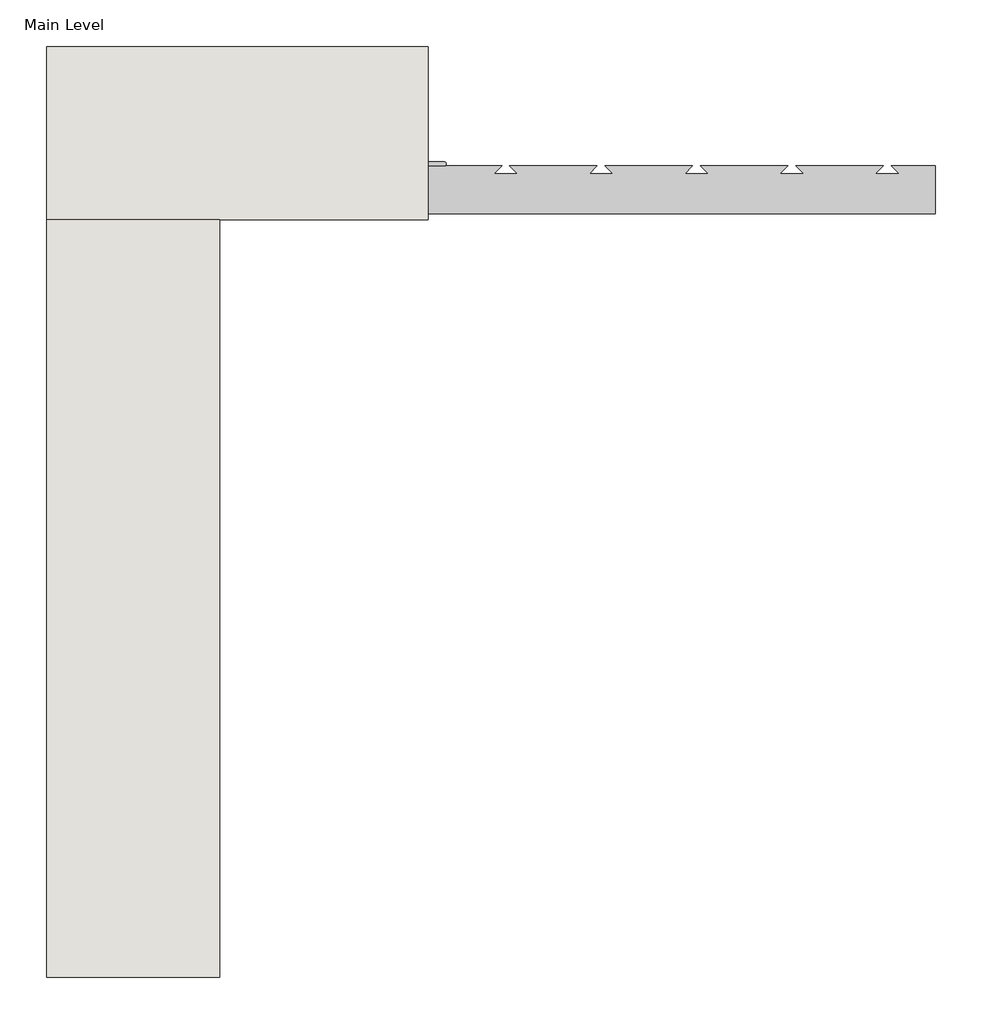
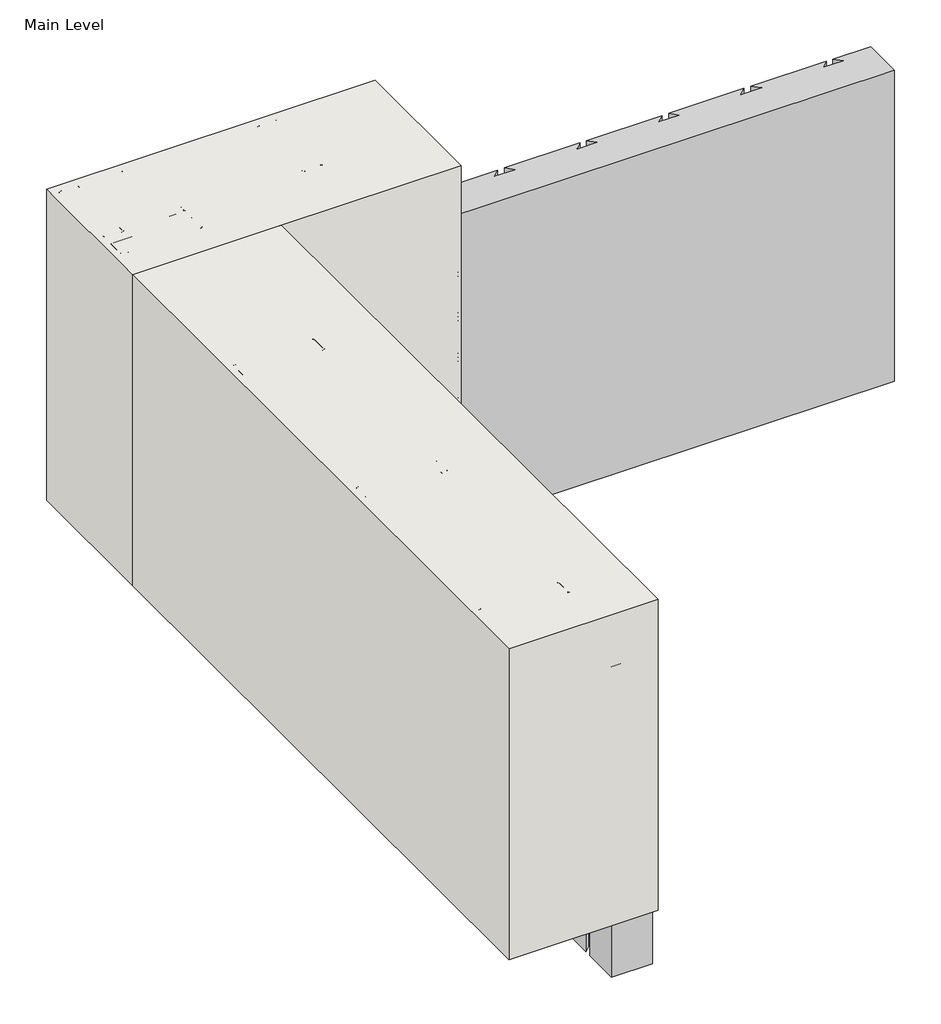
# One storey, incomplete: 36 proxies, 2 walls.
"""IFC4 building model written with IfcOpenShell, lengths in millimetres."""

from ifc_helpers import new_model, si_unit, origin, origin_with_axes, place, context, project, spatial, polyline, outline, extrude, faceted_brep, transform, mapped, element, save
from components import generic_models_03ec6e0e, generic_models_0ed8512b, generic_models_91a65217, generic_models_7cb75a2d, generic_models_e38217e9, generic_models_8121e3b1, generic_models_e2e28054, generic_models_599f1aef, generic_models_cbf5ee67, proxy_998bcb27, proxy_63d6b373, proxy_d4c17246

model = new_model("IFC4")

# Units and contexts
model_context = context("Model", 3, world=origin())
ifc_project = project(units=[si_unit("LENGTHUNIT", "METRE", prefix="MILLI")], contexts=[model_context])

# Site, building, storey
site = spatial("IfcSite", under=ifc_project)
building = spatial("IfcBuilding", under=site)
storey = spatial("IfcBuildingStorey", under=building, Name="Main Level", Elevation=0.0)

# Proxies
placement = place(None, origin())
generic_models_shape = generic_models_03ec6e0e(model_context)
element("IfcBuildingElementProxy", 1, Name="CRAi Generic Model Drywall Screw : CRAi Generic Model Drywall Screw", ObjectType="CRAi Generic Model Drywall Screw : CRAi Generic Model Drywall Screw", at=placement, inside=storey, context=model_context, shape_type="MappedRepresentation", body=[
    mapped(generic_models_shape, transform((27329.7539273, 614.9316297, 584.2), x_axis=(0.0, 1.0, 0.0), y_axis=(0.0, 0.0, 1.0), z_axis=(1.0, 0.0, 0.0))),
])
element("IfcBuildingElementProxy", 2, Name="CRAi Generic Model Drywall Screw : CRAi Generic Model Drywall Screw", ObjectType="CRAi Generic Model Drywall Screw : CRAi Generic Model Drywall Screw", at=placement, inside=storey, context=model_context, shape_type="MappedRepresentation", body=[
    mapped(generic_models_shape, transform((27329.7539273, 221.2316297, 584.2), x_axis=(0.0, 1.0, 0.0), y_axis=(0.0, 0.0, 1.0), z_axis=(1.0, 0.0, 0.0))),
])
element("IfcBuildingElementProxy", 3, Name="CRAi Generic Model Drywall Screw : CRAi Generic Model Drywall Screw", ObjectType="CRAi Generic Model Drywall Screw : CRAi Generic Model Drywall Screw", at=placement, inside=storey, context=model_context, shape_type="MappedRepresentation", body=[
    mapped(generic_models_shape, transform((27329.7539273, -172.4683703, 584.2), x_axis=(0.0, 1.0, 0.0), y_axis=(0.0, 0.0, 1.0), z_axis=(1.0, 0.0, 0.0))),
])
element("IfcBuildingElementProxy", 4, Name="CRAi Generic Model Drywall Screw : CRAi Generic Model Drywall Screw", ObjectType="CRAi Generic Model Drywall Screw : CRAi Generic Model Drywall Screw", at=placement, inside=storey, context=model_context, shape_type="MappedRepresentation", body=[
    mapped(generic_models_shape, transform((27329.7539273, -566.1683703, 584.2), x_axis=(0.0, 1.0, 0.0), y_axis=(0.0, 0.0, 1.0), z_axis=(1.0, 0.0, 0.0))),
])
element("IfcBuildingElementProxy", 5, Name="CRAi Generic Model Drywall Screw : CRAi Generic Model Drywall Screw", ObjectType="CRAi Generic Model Drywall Screw : CRAi Generic Model Drywall Screw", at=placement, inside=storey, context=model_context, shape_type="MappedRepresentation", body=[
    mapped(generic_models_shape, transform((27294.8289273, 633.9816297, 584.2), x_axis=(1.0, 0.0, 0.0), y_axis=(0.0, 0.0, 1.0), z_axis=(0.0, -1.0, 0.0))),
])
element("IfcBuildingElementProxy", 6, Name="CRAi Generic Model Drywall Screw : CRAi Generic Model Drywall Screw", ObjectType="CRAi Generic Model Drywall Screw : CRAi Generic Model Drywall Screw", at=placement, inside=storey, context=model_context, shape_type="MappedRepresentation", body=[
    mapped(generic_models_shape, transform((27180.5289273, 633.9816297, 584.2), x_axis=(1.0, 0.0, 0.0), y_axis=(0.0, 0.0, 1.0), z_axis=(0.0, -1.0, 0.0))),
])
element("IfcBuildingElementProxy", 7, Name="CRAi Generic Model Drywall Screw : CRAi Generic Model Drywall Screw", ObjectType="CRAi Generic Model Drywall Screw : CRAi Generic Model Drywall Screw", at=placement, inside=storey, context=model_context, shape_type="MappedRepresentation", body=[
    mapped(generic_models_shape, transform((27548.8289273, 633.9816297, 584.2), x_axis=(1.0, 0.0, 0.0), y_axis=(0.0, 0.0, 1.0), z_axis=(0.0, -1.0, 0.0))),
])
generic_models_2_shape = generic_models_0ed8512b(model_context)
element("IfcBuildingElementProxy", 8, Name="Durabond Generic Model Insulation Adhesive Flat : Durabond Generic Model Insulation Adhesive Flat", ObjectType="Durabond Generic Model Insulation Adhesive Flat : Durabond Generic Model Insulation Adhesive Flat", at=placement, inside=storey, context=model_context, shape_type="MappedRepresentation", body=[
    mapped(generic_models_2_shape, transform((27336.1039273, 510.1566297, 0.0), x_axis=(0.0, 1.0, 0.0), y_axis=(-1.0, 0.0, 0.0), z_axis=(0.0, 0.0, 1.0))),
])
element("IfcBuildingElementProxy", 9, Name="Durabond Generic Model Insulation Adhesive Flat : Durabond Generic Model Insulation Adhesive Flat", ObjectType="Durabond Generic Model Insulation Adhesive Flat : Durabond Generic Model Insulation Adhesive Flat", at=placement, inside=storey, context=model_context, shape_type="MappedRepresentation", body=[
    mapped(generic_models_2_shape, transform((27336.1039273, 433.9566297, 0.0), x_axis=(0.0, 1.0, 0.0), y_axis=(-1.0, 0.0, 0.0), z_axis=(0.0, 0.0, 1.0))),
])
element("IfcBuildingElementProxy", 10, Name="Durabond Generic Model Insulation Adhesive Flat : Durabond Generic Model Insulation Adhesive Flat", ObjectType="Durabond Generic Model Insulation Adhesive Flat : Durabond Generic Model Insulation Adhesive Flat", at=placement, inside=storey, context=model_context, shape_type="MappedRepresentation", body=[
    mapped(generic_models_2_shape, transform((27336.1039273, 357.7566297, 0.0), x_axis=(0.0, 1.0, 0.0), y_axis=(-1.0, 0.0, 0.0), z_axis=(0.0, 0.0, 1.0))),
])
element("IfcBuildingElementProxy", 11, Name="Durabond Generic Model Insulation Adhesive Flat : Durabond Generic Model Insulation Adhesive Flat", ObjectType="Durabond Generic Model Insulation Adhesive Flat : Durabond Generic Model Insulation Adhesive Flat", at=placement, inside=storey, context=model_context, shape_type="MappedRepresentation", body=[
    mapped(generic_models_2_shape, transform((27336.1039273, 281.5566297, 0.0), x_axis=(0.0, 1.0, 0.0), y_axis=(-1.0, 0.0, 0.0), z_axis=(0.0, 0.0, 1.0))),
])
element("IfcBuildingElementProxy", 12, Name="Durabond Generic Model Insulation Adhesive Flat : Durabond Generic Model Insulation Adhesive Flat", ObjectType="Durabond Generic Model Insulation Adhesive Flat : Durabond Generic Model Insulation Adhesive Flat", at=placement, inside=storey, context=model_context, shape_type="MappedRepresentation", body=[
    mapped(generic_models_2_shape, transform((27336.1039273, 205.3566297, 0.0), x_axis=(0.0, 1.0, 0.0), y_axis=(-1.0, 0.0, 0.0), z_axis=(0.0, 0.0, 1.0))),
])
element("IfcBuildingElementProxy", 13, Name="Durabond Generic Model Insulation Adhesive Flat : Durabond Generic Model Insulation Adhesive Flat", ObjectType="Durabond Generic Model Insulation Adhesive Flat : Durabond Generic Model Insulation Adhesive Flat", at=placement, inside=storey, context=model_context, shape_type="MappedRepresentation", body=[
    mapped(generic_models_2_shape, transform((27336.1039273, 129.1566297, 0.0), x_axis=(0.0, 1.0, 0.0), y_axis=(-1.0, 0.0, 0.0), z_axis=(0.0, 0.0, 1.0))),
])
element("IfcBuildingElementProxy", 14, Name="Durabond Generic Model Insulation Adhesive Flat : Durabond Generic Model Insulation Adhesive Flat", ObjectType="Durabond Generic Model Insulation Adhesive Flat : Durabond Generic Model Insulation Adhesive Flat", at=placement, inside=storey, context=model_context, shape_type="MappedRepresentation", body=[
    mapped(generic_models_2_shape, transform((27336.1039273, 52.9566297, 0.0), x_axis=(0.0, 1.0, 0.0), y_axis=(-1.0, 0.0, 0.0), z_axis=(0.0, 0.0, 1.0))),
])
element("IfcBuildingElementProxy", 15, Name="Durabond Generic Model Insulation Adhesive Flat : Durabond Generic Model Insulation Adhesive Flat", ObjectType="Durabond Generic Model Insulation Adhesive Flat : Durabond Generic Model Insulation Adhesive Flat", at=placement, inside=storey, context=model_context, shape_type="MappedRepresentation", body=[
    mapped(generic_models_2_shape, transform((27336.1039273, -23.2433703, 0.0), x_axis=(0.0, 1.0, 0.0), y_axis=(-1.0, 0.0, 0.0), z_axis=(0.0, 0.0, 1.0))),
])
element("IfcBuildingElementProxy", 16, Name="Durabond Generic Model Insulation Adhesive Flat : Durabond Generic Model Insulation Adhesive Flat", ObjectType="Durabond Generic Model Insulation Adhesive Flat : Durabond Generic Model Insulation Adhesive Flat", at=placement, inside=storey, context=model_context, shape_type="MappedRepresentation", body=[
    mapped(generic_models_2_shape, transform((27336.1039273, -99.4433703, 0.0), x_axis=(0.0, 1.0, 0.0), y_axis=(-1.0, 0.0, 0.0), z_axis=(0.0, 0.0, 1.0))),
])
element("IfcBuildingElementProxy", 17, Name="Durabond Generic Model Insulation Adhesive Flat : Durabond Generic Model Insulation Adhesive Flat", ObjectType="Durabond Generic Model Insulation Adhesive Flat : Durabond Generic Model Insulation Adhesive Flat", at=placement, inside=storey, context=model_context, shape_type="MappedRepresentation", body=[
    mapped(generic_models_2_shape, transform((27336.1039273, -175.6433703, 0.0), x_axis=(0.0, 1.0, 0.0), y_axis=(-1.0, 0.0, 0.0), z_axis=(0.0, 0.0, 1.0))),
])
element("IfcBuildingElementProxy", 18, Name="Durabond Generic Model Insulation Adhesive Flat : Durabond Generic Model Insulation Adhesive Flat", ObjectType="Durabond Generic Model Insulation Adhesive Flat : Durabond Generic Model Insulation Adhesive Flat", at=placement, inside=storey, context=model_context, shape_type="MappedRepresentation", body=[
    mapped(generic_models_2_shape, transform((27336.1039273, -251.8433703, 0.0), x_axis=(0.0, 1.0, 0.0), y_axis=(-1.0, 0.0, 0.0), z_axis=(0.0, 0.0, 1.0))),
])
element("IfcBuildingElementProxy", 19, Name="Durabond Generic Model Insulation Adhesive Flat : Durabond Generic Model Insulation Adhesive Flat", ObjectType="Durabond Generic Model Insulation Adhesive Flat : Durabond Generic Model Insulation Adhesive Flat", at=placement, inside=storey, context=model_context, shape_type="MappedRepresentation", body=[
    mapped(generic_models_2_shape, transform((27336.1039273, -328.0433703, 0.0), x_axis=(0.0, 1.0, 0.0), y_axis=(-1.0, 0.0, 0.0), z_axis=(0.0, 0.0, 1.0))),
])
element("IfcBuildingElementProxy", 20, Name="Durabond Generic Model Insulation Adhesive Flat : Durabond Generic Model Insulation Adhesive Flat", ObjectType="Durabond Generic Model Insulation Adhesive Flat : Durabond Generic Model Insulation Adhesive Flat", at=placement, inside=storey, context=model_context, shape_type="MappedRepresentation", body=[
    mapped(generic_models_2_shape, transform((27336.1039273, -404.2433703, 0.0), x_axis=(0.0, 1.0, 0.0), y_axis=(-1.0, 0.0, 0.0), z_axis=(0.0, 0.0, 1.0))),
])
element("IfcBuildingElementProxy", 21, Name="Durabond Generic Model Insulation Adhesive Flat : Durabond Generic Model Insulation Adhesive Flat", ObjectType="Durabond Generic Model Insulation Adhesive Flat : Durabond Generic Model Insulation Adhesive Flat", at=placement, inside=storey, context=model_context, shape_type="MappedRepresentation", body=[
    mapped(generic_models_2_shape, transform((27336.1039273, -480.4433703, 0.0), x_axis=(0.0, 1.0, 0.0), y_axis=(-1.0, 0.0, 0.0), z_axis=(0.0, 0.0, 1.0))),
])
element("IfcBuildingElementProxy", 22, Name="Durabond Generic Model Insulation Adhesive Flat : Durabond Generic Model Insulation Adhesive Flat", ObjectType="Durabond Generic Model Insulation Adhesive Flat : Durabond Generic Model Insulation Adhesive Flat", at=placement, inside=storey, context=model_context, shape_type="MappedRepresentation", body=[
    mapped(generic_models_2_shape, transform((27336.1039273, -556.6433703, 0.0), x_axis=(0.0, 1.0, 0.0), y_axis=(-1.0, 0.0, 0.0), z_axis=(0.0, 0.0, 1.0))),
])
element("IfcBuildingElementProxy", 23, Name="Durabond Generic Model Insulation Adhesive Flat : Durabond Generic Model Insulation Adhesive Flat", ObjectType="Durabond Generic Model Insulation Adhesive Flat : Durabond Generic Model Insulation Adhesive Flat", at=placement, inside=storey, context=model_context, shape_type="MappedRepresentation", body=[
    mapped(generic_models_2_shape, transform((27336.1039273, -632.8433703, 0.0), x_axis=(0.0, 1.0, 0.0), y_axis=(-1.0, 0.0, 0.0), z_axis=(0.0, 0.0, 1.0))),
])
generic_models_3_shape = generic_models_91a65217(model_context)
element("IfcBuildingElementProxy", 24, Name="Durabond Generic Model Insulation Adhesive Flat : Durabond Generic Model Insulation Adhesive Flat", ObjectType="Durabond Generic Model Insulation Adhesive Flat : Durabond Generic Model Insulation Adhesive Flat", at=placement, inside=storey, context=model_context, shape_type="MappedRepresentation", body=[
    mapped(generic_models_3_shape, transform((27386.9039273, 627.6316297, 0.0), x_axis=(1.0, 0.0, 0.0), y_axis=(0.0, 1.0, 0.0), z_axis=(0.0, 0.0, 1.0))),
])
element("IfcBuildingElementProxy", 25, Name="Durabond Generic Model Insulation Adhesive Flat : Durabond Generic Model Insulation Adhesive Flat", ObjectType="Durabond Generic Model Insulation Adhesive Flat : Durabond Generic Model Insulation Adhesive Flat", at=placement, inside=storey, context=model_context, shape_type="MappedRepresentation", body=[
    mapped(generic_models_3_shape, transform((27463.1039273, 627.6316297, 0.0), x_axis=(1.0, 0.0, 0.0), y_axis=(0.0, 1.0, 0.0), z_axis=(0.0, 0.0, 1.0))),
])
element("IfcBuildingElementProxy", 26, Name="Durabond Generic Model Insulation Adhesive Flat : Durabond Generic Model Insulation Adhesive Flat", ObjectType="Durabond Generic Model Insulation Adhesive Flat : Durabond Generic Model Insulation Adhesive Flat", at=placement, inside=storey, context=model_context, shape_type="MappedRepresentation", body=[
    mapped(generic_models_3_shape, transform((27539.3039273, 627.6316297, 0.0), x_axis=(1.0, 0.0, 0.0), y_axis=(0.0, 1.0, 0.0), z_axis=(0.0, 0.0, 1.0))),
])
element("IfcBuildingElementProxy", 27, Name="Durabond Generic Model Insulation Adhesive Flat : Durabond Generic Model Insulation Adhesive Flat", ObjectType="Durabond Generic Model Insulation Adhesive Flat : Durabond Generic Model Insulation Adhesive Flat", at=placement, inside=storey, context=model_context, shape_type="MappedRepresentation", body=[
    mapped(generic_models_3_shape, transform((27615.5039273, 627.6316297, 0.0), x_axis=(1.0, 0.0, 0.0), y_axis=(0.0, 1.0, 0.0), z_axis=(0.0, 0.0, 1.0))),
])
element("IfcBuildingElementProxy", 28, Name="Durabond Generic Model Insulation Adhesive Flat : Durabond Generic Model Insulation Adhesive Flat", ObjectType="Durabond Generic Model Insulation Adhesive Flat : Durabond Generic Model Insulation Adhesive Flat", at=placement, inside=storey, context=model_context, shape_type="MappedRepresentation", body=[
    mapped(generic_models_3_shape, transform((27691.7039273, 627.6316297, 0.0), x_axis=(1.0, 0.0, 0.0), y_axis=(0.0, 1.0, 0.0), z_axis=(0.0, 0.0, 1.0))),
])
element("IfcBuildingElementProxy", 29, Name="Durabond Generic Model Insulation Adhesive Flat : Durabond Generic Model Insulation Adhesive Flat", ObjectType="Durabond Generic Model Insulation Adhesive Flat : Durabond Generic Model Insulation Adhesive Flat", at=placement, inside=storey, context=model_context, shape_type="MappedRepresentation", body=[
    mapped(generic_models_3_shape, transform((27767.9039273, 627.6316297, 0.0), x_axis=(1.0, 0.0, 0.0), y_axis=(0.0, 1.0, 0.0), z_axis=(0.0, 0.0, 1.0))),
])
generic_models_4_shape = generic_models_7cb75a2d(model_context)
generic_models_5_shape = generic_models_e38217e9(model_context)
generic_models_6_shape = generic_models_8121e3b1(model_context)
generic_models_7_shape = generic_models_e2e28054(model_context)
element("IfcBuildingElementProxy", 30, Name="CRAi Generic Model Mesh Piece Face Based : Wider Mesh", ObjectType="CRAi Generic Model Mesh Piece Face Based : Wider Mesh", at=placement, inside=storey, context=model_context, shape_type="MappedRepresentation", body=[
    mapped(generic_models_4_shape, transform((27588.5164273, 541.9066297, 228.6), x_axis=(0.0, 0.0, 1.0), y_axis=(-1.0, 0.0, 0.0), z_axis=(0.0, -1.0, 0.0))),
    mapped(generic_models_5_shape, transform((27588.5164273, 541.9066297, 228.6), x_axis=(0.0, 0.0, 1.0), y_axis=(-1.0, 0.0, 0.0), z_axis=(0.0, -1.0, 0.0))),
    mapped(generic_models_6_shape, transform((27588.5164273, 541.9066297, 228.6), x_axis=(0.0, 0.0, 1.0), y_axis=(-1.0, 0.0, 0.0), z_axis=(0.0, -1.0, 0.0))),
    mapped(generic_models_7_shape, transform((27588.5164273, 541.9066297, 228.6), x_axis=(0.0, 0.0, 1.0), y_axis=(-1.0, 0.0, 0.0), z_axis=(0.0, -1.0, 0.0))),
])
generic_models_8_shape = generic_models_599f1aef(model_context)
element("IfcBuildingElementProxy", 31, Name="CRAi Generic Model Metal Stud Array : CRAi Generic Model Metal Stud Array", ObjectType="CRAi Generic Model Metal Stud Array : CRAi Generic Model Metal Stud Array", at=placement, inside=storey, context=model_context, shape_type="MappedRepresentation", body=[
    mapped(generic_models_8_shape, transform((27364.6789273, 726.0566297, 0.0), x_axis=(1.0, 0.0, 0.0), y_axis=(0.0, 1.0, 0.0), z_axis=(0.0, 0.0, 1.0))),
])
generic_models_9_shape = generic_models_cbf5ee67(model_context)
element("IfcBuildingElementProxy", 32, Name="CRAi Generic Model Metal Stud Array : CRAi Generic Model Metal Stud Array", ObjectType="CRAi Generic Model Metal Stud Array : CRAi Generic Model Metal Stud Array", at=placement, inside=storey, context=model_context, shape_type="MappedRepresentation", body=[
    mapped(generic_models_9_shape, transform((27237.6789273, 24.3816297, 0.0), x_axis=(0.0, -1.0, 0.0), y_axis=(1.0, 0.0, 0.0), z_axis=(0.0, 0.0, 1.0))),
])
proxy_shape = proxy_998bcb27(model_context)
element("IfcBuildingElementProxy", 33, Name="Durabond Generic Model Flexlite Insulation Board : 3\"", ObjectType="Durabond Generic Model Flexlite Insulation Board : 3\"", at=placement, inside=storey, context=model_context, shape_type="MappedRepresentation", body=[
    mapped(proxy_shape, transform((27958.4039273, 624.4566297, 203.2), x_axis=(1.0, 0.0, 0.0), y_axis=(0.0, 0.0, 1.0), z_axis=(0.0, -1.0, 0.0))),
])
element("IfcBuildingElementProxy", 34, Name="Durabond Generic Model Flexlite Insulation Board : 3\"", ObjectType="Durabond Generic Model Flexlite Insulation Board : 3\"", at=placement, inside=storey, context=model_context, shape_type="MappedRepresentation", body=[
    mapped(proxy_shape, transform((27339.2789273, -61.3433703, 203.2), x_axis=(0.0, -1.0, 0.0), y_axis=(0.0, 0.0, -1.0), z_axis=(1.0, 0.0, 0.0))),
])
proxy_2_shape = proxy_63d6b373(model_context)
element("IfcBuildingElementProxy", 35, Name="Durabond Generic Model Corner 90 Membrane : 4\" Barrier Seam Tape", ObjectType="Durabond Generic Model Corner 90 Membrane : 4\" Barrier Seam Tape", at=placement, inside=storey, context=model_context, shape_type="MappedRepresentation", body=[
    mapped(proxy_2_shape, transform((27330.5476773, 633.1878797, 0.0), x_axis=(-1.0, 0.0, 0.0), y_axis=(0.0, -1.0, 0.0), z_axis=(0.0, 0.0, 1.0))),
])
proxy_3_shape = proxy_d4c17246(model_context)
element("IfcBuildingElementProxy", 36, Name="CRAi Generic Model Metal Stud : Metal Framing Stud - 1\" x 3.5\"", ObjectType="CRAi Generic Model Metal Stud : Metal Framing Stud - 1\" x 3.5\"", at=placement, inside=storey, context=model_context, shape_type="MappedRepresentation", body=[
    mapped(proxy_3_shape, transform((27294.8289273, 726.0566297, 0.0), x_axis=(1.0, 0.0, 0.0), y_axis=(0.0, 1.0, 0.0), z_axis=(0.0, 0.0, 1.0))),
])

# Walls
element("IfcWall", 37, ObjectType="189mm (7.5”) EIFS Field Applied on Mtl. Stud Layer - 50mm Grooved Insulation Board Metal Stud Wall (AirStop)", at=placement, inside=storey, context=model_context, shape_type="SweptSolid", body=[
    extrude(outline(polyline([(27425.0039273, 538.7316297), (27425.0039273, -670.9433703), (27148.7789273, -670.9433703), (27148.7789273, 538.7316297), (27425.0039273, 538.7316297)])), origin_with_axes(), (0.0, 0.0, 1.0), 609.6),
])
element("IfcWall", 38, ObjectType="189mm (7.5”) EIFS Field Applied on Mtl. Stud Layer - 50mm Grooved Insulation Board Metal Stud Wall (AirStop)", at=placement, inside=storey, context=model_context, shape_type="Brep", body=[
    faceted_brep([(27148.7789273, 538.7316297, 0.0), (27425.0039273, 538.7316297, 0.0), (27758.3789273, 538.7316297, 0.0), (27758.3789273, 538.7316297, 609.6), (27425.0039273, 538.7316297, 609.6), (27148.7789273, 538.7316297, 609.6), (27148.7789273, 814.9566297, 0.0), (27148.7789273, 814.9566297, 609.6), (27758.3789273, 814.9566297, 609.6), (27758.3789273, 814.9566297, 0.0)], [[[0, 1, 2, 3, 4, 5]], [[6, 7, 8, 9]], [[2, 1, 0, 6, 9]], [[3, 2, 9, 8]], [[5, 4, 3, 8, 7]], [[0, 5, 7, 6]]]),
])

save(model, "model.ifc")
